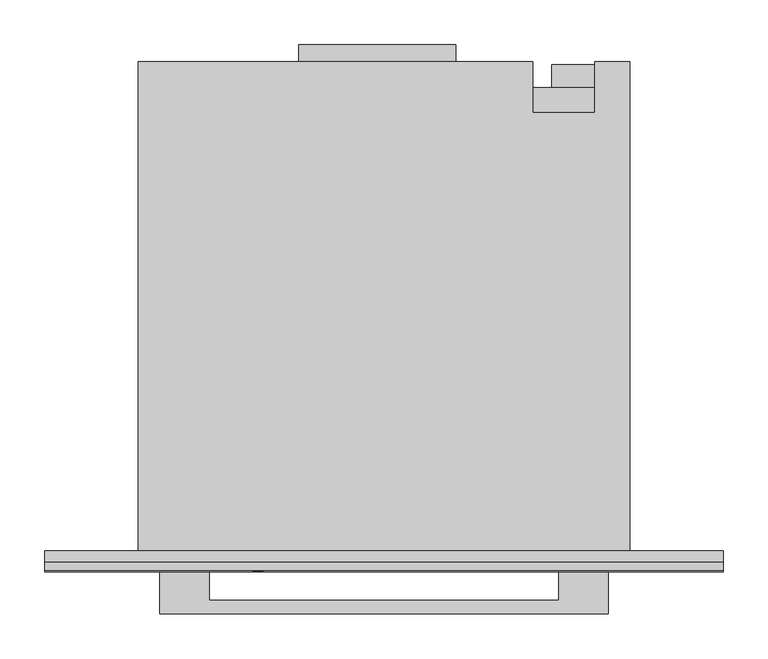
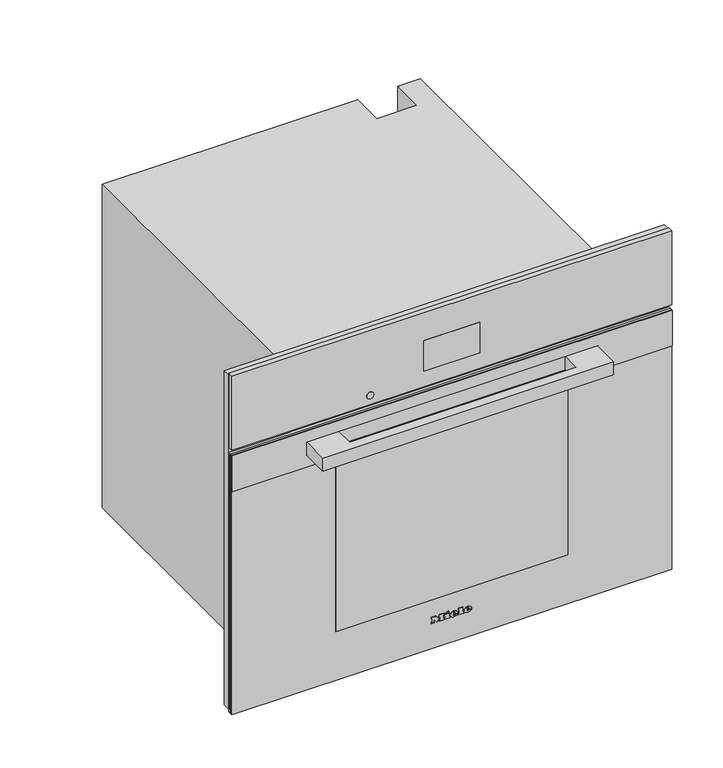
"""IFC4 building model written with IfcOpenShell, lengths in millimetres: proxy geometry, 11876470_USA_DGC7680_EDST-CLST : 23768043_USA_11876470_DGC7680_EDST-CLST."""

from ifc_helpers import new_model, si_unit, point, frame, frame_2d, origin, place, context, project, spatial, polyline, circle_curve, ellipse_curve, trimmed, segment, composite_curve, outline, extrude, faceted_brep, source, transform, mapped, element, save
from ifc_brep_helpers import plane_surface, cylinder_surface, revolved_surface, extruded_surface, advanced_brep


def specialty_equipment_7ddf465e(model_context):
    return source(origin(), model_context, "Body", "SolidModel", [
        faceted_brep([(378.5, -13.0, 617.0), (-378.5, -13.0, 617.0), (-378.5, -13.0, 9.0), (-272.5, -13.0, 9.0), (-272.5, -13.0, 485.0), (272.5, -13.0, 485.0), (272.5, -13.0, 9.0), (378.5, -13.0, 9.0), (378.5, 0.0, 617.0), (378.5, 0.0, 9.0), (-378.5, 0.0, 9.0), (-378.5, 0.0, 617.0), (231.0, 0.0, 61.0), (231.0, 0.0, 411.0), (-231.0, 0.0, 411.0), (-231.0, 0.0, 61.0), (272.5, -5.0, 9.0), (-272.5, -5.0, 9.0), (-272.5, -5.0, 485.0), (272.5, -5.0, 485.0), (231.0, -5.0, 411.0), (231.0, -5.0, 61.0), (-231.0, -5.0, 61.0), (-231.0, -5.0, 411.0)], [[[0, 1, 2, 3, 4, 5, 6, 7]], [[8, 9, 10, 11], [12, 13, 14, 15]], [[1, 0, 8, 11]], [[2, 1, 11, 10]], [[10, 9, 7, 6, 16, 17, 3, 2]], [[0, 7, 9, 8]], [[18, 19, 5, 4]], [[18, 4, 3, 17]], [[5, 19, 16, 6]], [[19, 18, 17, 16], [20, 21, 22, 23]], [[20, 13, 12, 21]], [[21, 12, 15, 22]], [[22, 15, 14, 23]], [[13, 20, 23, 14]]]),
        extrude(outline(polyline([(-95.0, 565.0), (80.0, 565.0), (80.0, 546.0), (-95.0, 546.0), (-95.0, 565.0)])), frame((0.0, 0.0, 311.0), z_axis=(0.0, 0.0, 1.0), x_axis=(1.0, 0.0, 0.0)), (0.0, 0.0, 1.0), 1.0),
        extrude(outline(polyline([(218.8383288, 522.0), (225.1236409, 522.0), (225.1236409, 511.9492425), (223.8571792, 511.9492425), (223.8571792, 520.7409796), (218.8383288, 520.7409796), (218.8383288, 522.0)])), frame((0.0, 0.0, 272.0), z_axis=(0.0, 0.0, 1.0), x_axis=(1.0, 0.0, 0.0)), (0.0, 0.0, 1.0), 1.0),
        extrude(outline(polyline([(227.0, 522.0), (234.3797826, 522.0), (234.3797826, 511.9503529), (227.15422, 511.9503529), (227.15422, 513.220938), (233.1355215, 513.220938), (233.1355215, 516.1975645), (227.4863097, 516.1975645), (227.4863097, 517.449242), (233.1355215, 517.449242), (233.1355215, 520.7448633), (227.0, 520.7448633), (227.0, 522.0)])), frame((0.0, 0.0, 272.0), z_axis=(0.0, 0.0, 1.0), x_axis=(1.0, 0.0, 0.0)), (0.0, 0.0, 1.0), 1.0),
        extrude(outline(composite_curve([segment(trimmed(circle_curve(frame_2d((227.0, 517.0)), 7.5), [point((219.5, 517.0))], [point((234.5, 517.0))], False, "CARTESIAN"), True, "CONTINUOUS"), segment(trimmed(circle_curve(frame_2d((227.0, 517.0)), 7.5), [point((234.5, 517.0))], [point((219.5, 517.0))], False, "CARTESIAN"), True, "CONTINUOUS")], self_intersect=False)), frame((0.0, 0.0, 273.0), z_axis=(0.0, 0.0, 1.0), x_axis=(1.0, 0.0, 0.0)), (0.0, 0.0, 1.0), 30.0),
        extrude(outline(polyline([(266.0, 517.0), (187.0, 517.0), (187.0, 543.0), (266.0, 543.0), (266.0, 517.0)])), frame((0.0, 0.0, 303.0), z_axis=(0.0, 0.0, 1.0), x_axis=(1.0, 0.0, 0.0)), (0.0, 0.0, 1.0), 111.0),
        faceted_brep([(-274.0, 546.0, 0.0), (-274.0, 546.0, 588.0), (166.0, 546.0, 588.0), (166.0, 546.0, 0.0), (235.0, 546.0, 588.0), (274.0, 546.0, 588.0), (274.0, 546.0, 478.0), (235.0, 546.0, 478.0), (274.0, 0.0, 588.0), (-274.0, 0.0, 588.0), (-274.0, 0.0, 0.0), (274.0, 0.0, 0.0), (231.0, 0.0, 411.0), (231.0, 0.0, 61.0), (-231.0, 0.0, 61.0), (-231.0, 0.0, 411.0), (235.0, 489.0, 588.0), (166.0, 489.0, 588.0), (166.0, 517.0, 0.0), (274.0, 517.0, 0.0), (274.0, 517.0, 478.0), (231.0, 411.0, 411.0), (-231.0, 411.0, 411.0), (-231.0, 411.0, 61.0), (231.0, 411.0, 61.0), (235.0, 489.0, 477.0), (166.0, 489.0, 477.0), (166.0, 517.0, 477.0), (235.0, 517.0, 477.0), (235.0, 517.0, 478.0)], [[[0, 1, 2, 3]], [[4, 5, 6, 7]], [[8, 9, 10, 11], [12, 13, 14, 15]], [[9, 8, 5, 4, 16, 17, 2, 1]], [[1, 0, 10, 9]], [[11, 10, 0, 3, 18, 19]], [[8, 11, 19, 20, 6, 5]], [[21, 22, 23, 24]], [[21, 24, 13, 12]], [[24, 23, 14, 13]], [[23, 22, 15, 14]], [[22, 21, 12, 15]], [[16, 25, 26, 17]], [[17, 26, 27, 18, 3, 2]], [[26, 25, 28, 27]], [[25, 16, 4, 7, 29, 28]], [[29, 20, 19, 18, 27, 28]], [[20, 29, 7, 6]]]),
        advanced_brep(
        [(26.2998, -23.0, 52.7018), (26.2998, -23.0, 53.8532), (33.9264, -23.0, 53.8532), (20.6568, -23.0, 53.8532), (23.7918, -23.0, 50.0), (33.7326, -23.0, 52.7018), (30.2898, -23.0, 52.7018), (27.5766, -23.0, 51.425), (26.2998, -23.0, 55.3124), (26.2998, -23.0, 56.555), (28.2492, -23.0, 56.555), (28.2492, -23.0, 55.3124), (26.2998, -22.0, 52.7018), (27.5766, -22.0, 51.425), (30.2898, -22.0, 52.7018), (33.7326, -22.0, 52.7018), (23.7918, -22.0, 50.0), (20.6568, -22.0, 53.8532), (33.9264, -22.0, 53.8532), (26.2998, -22.0, 53.8532), (26.2998, -22.0, 55.3124), (28.2492, -22.0, 55.3124), (28.2492, -22.0, 56.555), (26.2998, -22.0, 56.555)],
        [
            (0, 1),
            (1, 2),
            (2, 3, ellipse_curve(frame((27.2916, -23.0, 53.8532), z_axis=(0.0, -1.0, 0.0), x_axis=(-1.0, 0.0, 0.0)), 6.6348, 5.4834)),
            (3, 4, circle_curve(frame((25.0686622, -23.0, 54.2408), z_axis=(0.0, -1.0, 0.0), x_axis=(0.0, 0.0, -1.0)), 4.4288556)),
            (4, 5, circle_curve(frame((27.1587808, -23.0, 57.2504), z_axis=(0.0, -1.0, 0.0), x_axis=(0.0, 0.0, -1.0)), 7.9940516)),
            (5, 6),
            (6, 7, circle_curve(frame((28.1338588, -23.0, 53.762), z_axis=(0.0, 1.0, 0.0), x_axis=(0.0, 0.0, -1.0)), 2.4025208)),
            (7, 0, circle_curve(frame((27.5766, -23.0, 52.7018), z_axis=(0.0, 1.0, 0.0), x_axis=(0.0, 0.0, -1.0)), 1.2768)),
            (8, 9),
            (9, 10, circle_curve(frame((27.2745, -23.0, 56.555), z_axis=(0.0, 1.0, 0.0), x_axis=(0.0, 0.0, -1.0)), 0.9747)),
            (10, 11),
            (11, 8),
            (12, 13, circle_curve(frame((27.5766, -22.0, 52.7018), z_axis=(0.0, -1.0, 0.0), x_axis=(0.0, 0.0, -1.0)), 1.2768)),
            (13, 14, circle_curve(frame((28.1338588, -22.0, 53.762), z_axis=(0.0, -1.0, 0.0), x_axis=(0.0, 0.0, -1.0)), 2.4025208)),
            (14, 15),
            (15, 16, circle_curve(frame((27.1587808, -22.0, 57.2504), z_axis=(0.0, 1.0, 0.0), x_axis=(0.0, 0.0, -1.0)), 7.9940516)),
            (16, 17, circle_curve(frame((25.0686622, -22.0, 54.2408), z_axis=(0.0, 1.0, 0.0), x_axis=(0.0, 0.0, -1.0)), 4.4288556)),
            (17, 18, ellipse_curve(frame((27.2916, -22.0, 53.8532), z_axis=(0.0, 1.0, 0.0), x_axis=(-1.0, 0.0, 0.0)), 6.6348, 5.4834)),
            (18, 19),
            (19, 12),
            (20, 21),
            (21, 22),
            (22, 23, circle_curve(frame((27.2745, -22.0, 56.555), z_axis=(0.0, -1.0, 0.0), x_axis=(0.0, 0.0, -1.0)), 0.9747)),
            (23, 20),
            (0, 12),
            (19, 1),
            (18, 2),
            (5, 15),
            (14, 6),
            (17, 3),
            (13, 7),
            (16, 4),
            (8, 20),
            (23, 9),
            (22, 10),
            (21, 11),
        ],
        [
            plane_surface(frame((26.2998, -23.0, 53.8532), z_axis=(0.0, -1.0, 0.0), x_axis=(0.0, 0.0, 1.0))),
            plane_surface(frame((26.2998, -22.0, 53.8532), z_axis=(0.0, 1.0, 0.0), x_axis=(0.0, 0.0, -1.0))),
            plane_surface(frame((26.2998, -23.0, 52.7018), z_axis=(1.0, 0.0, 0.0), x_axis=(0.0, 1.0, 0.0))),
            plane_surface(frame((26.2998, -23.0, 53.8532), z_axis=(0.0, 0.0, -1.0), x_axis=(0.0, 1.0, 0.0))),
            plane_surface(frame((33.7326, -23.0, 52.7018), z_axis=(0.0, 0.0, 1.0), x_axis=(0.0, 1.0, 0.0))),
            extruded_surface(trimmed(ellipse_curve(frame((27.2916, -21.0, 53.8532), z_axis=(0.0, -1.0, 0.0), x_axis=(-1.0, 0.0, 0.0)), 6.6348, 5.4834), [point((33.9264, -21.0, 53.8532))], [point((20.6568, -21.0, 53.8532))], True, "CARTESIAN"), (0.0, -1.0, 0.0), 1.0),
            revolved_surface(polyline([(28.1338588, -22.0, 51.3594792), (28.1338588, -23.0, 51.3594792)]), (28.1338588, -22.0, 53.762), (0.0, 1.0, 0.0)),
            revolved_surface(polyline([(27.5766, -22.0, 51.425), (27.5766, -23.0, 51.425)]), (27.5766, -22.0, 52.7018), (0.0, 1.0, 0.0)),
            cylinder_surface(frame((25.0686622, -22.0, 54.2408), z_axis=(0.0, -1.0, 0.0), x_axis=(0.0, 0.0, -1.0)), 4.4288556),
            cylinder_surface(frame((27.1587808, -22.0, 57.2504), z_axis=(0.0, -1.0, 0.0), x_axis=(0.0, 0.0, -1.0)), 7.9940516),
            plane_surface(frame((26.2998, -23.0, 55.3124), z_axis=(1.0, 0.0, 0.0), x_axis=(0.0, 1.0, 0.0))),
            revolved_surface(polyline([(27.2745, -22.0, 55.5803), (27.2745, -23.0, 55.5803)]), (27.2745, -22.0, 56.555), (0.0, 1.0, 0.0)),
            plane_surface(frame((28.2492, -23.0, 56.555), z_axis=(-1.0, 0.0, 0.0), x_axis=(0.0, 1.0, 0.0))),
            plane_surface(frame((28.2492, -23.0, 55.3124), z_axis=(0.0, 0.0, 1.0), x_axis=(0.0, 1.0, 0.0))),
        ],
        [
            (0, [[1, 2, 3, 4, 5, 6, 7, 8], [9, 10, 11, 12]]),
            (1, [[13, 14, 15, 16, 17, 18, 19, 20], [21, 22, 23, 24]]),
            (2, [[-1, 25, -20, 26]]),
            (3, [[-2, -26, -19, 27]]),
            (4, [[-6, 28, -15, 29]]),
            (5, [[-3, -27, -18, 30]]),
            (6, [[-7, -29, -14, 31]]),
            (7, [[-8, -31, -13, -25]]),
            (8, [[-4, -30, -17, 32]]),
            (9, [[-5, -32, -16, -28]]),
            (10, [[-9, 33, -24, 34]]),
            (11, [[-10, -34, -23, 35]]),
            (12, [[-11, -35, -22, 36]]),
            (13, [[-12, -36, -21, -33]]),
        ],
    ),
        advanced_brep(
        [(2.508, -23.0, 52.7018), (2.508, -23.0, 53.8532), (10.1346, -23.0, 53.8532), (-3.135, -23.0, 53.8532), (0.0, -23.0, 50.0), (9.9408, -23.0, 52.7018), (6.498, -23.0, 52.7018), (3.7848, -23.0, 51.425), (2.508, -23.0, 55.3124), (2.508, -23.0, 56.555), (4.4574, -23.0, 56.555), (4.4574, -23.0, 55.3124), (2.508, -22.0, 52.7018), (3.7848, -22.0, 51.425), (6.498, -22.0, 52.7018), (9.9408, -22.0, 52.7018), (0.0, -22.0, 50.0), (-3.135, -22.0, 53.8532), (10.1346, -22.0, 53.8532), (2.508, -22.0, 53.8532), (2.508, -22.0, 55.3124), (4.4574, -22.0, 55.3124), (4.4574, -22.0, 56.555), (2.508, -22.0, 56.555)],
        [
            (0, 1),
            (1, 2),
            (2, 3, ellipse_curve(frame((3.4998, -23.0, 53.8532), z_axis=(0.0, -1.0, 0.0), x_axis=(-1.0, 0.0, 0.0)), 6.6348, 5.4834)),
            (3, 4, circle_curve(frame((1.2768622, -23.0, 54.2408), z_axis=(0.0, -1.0, 0.0), x_axis=(0.0, 0.0, -1.0)), 4.4288556)),
            (4, 5, circle_curve(frame((3.3669808, -23.0, 57.2504), z_axis=(0.0, -1.0, 0.0), x_axis=(0.0, 0.0, -1.0)), 7.9940516)),
            (5, 6),
            (6, 7, circle_curve(frame((4.3420588, -23.0, 53.762), z_axis=(0.0, 1.0, 0.0), x_axis=(0.0, 0.0, -1.0)), 2.4025208)),
            (7, 0, circle_curve(frame((3.7848, -23.0, 52.7018), z_axis=(0.0, 1.0, 0.0), x_axis=(0.0, 0.0, -1.0)), 1.2768)),
            (8, 9),
            (9, 10, circle_curve(frame((3.4827, -23.0, 56.555), z_axis=(0.0, 1.0, 0.0), x_axis=(0.0, 0.0, -1.0)), 0.9747)),
            (10, 11),
            (11, 8),
            (12, 13, circle_curve(frame((3.7848, -22.0, 52.7018), z_axis=(0.0, -1.0, 0.0), x_axis=(0.0, 0.0, -1.0)), 1.2768)),
            (13, 14, circle_curve(frame((4.3420588, -22.0, 53.762), z_axis=(0.0, -1.0, 0.0), x_axis=(0.0, 0.0, -1.0)), 2.4025208)),
            (14, 15),
            (15, 16, circle_curve(frame((3.3669808, -22.0, 57.2504), z_axis=(0.0, 1.0, 0.0), x_axis=(0.0, 0.0, -1.0)), 7.9940516)),
            (16, 17, circle_curve(frame((1.2768622, -22.0, 54.2408), z_axis=(0.0, 1.0, 0.0), x_axis=(0.0, 0.0, -1.0)), 4.4288556)),
            (17, 18, ellipse_curve(frame((3.4998, -22.0, 53.8532), z_axis=(0.0, 1.0, 0.0), x_axis=(-1.0, 0.0, 0.0)), 6.6348, 5.4834)),
            (18, 19),
            (19, 12),
            (20, 21),
            (21, 22),
            (22, 23, circle_curve(frame((3.4827, -22.0, 56.555), z_axis=(0.0, -1.0, 0.0), x_axis=(0.0, 0.0, -1.0)), 0.9747)),
            (23, 20),
            (0, 12),
            (19, 1),
            (18, 2),
            (5, 15),
            (14, 6),
            (17, 3),
            (13, 7),
            (16, 4),
            (8, 20),
            (23, 9),
            (22, 10),
            (21, 11),
        ],
        [
            plane_surface(frame((2.508, -23.0, 53.8532), z_axis=(0.0, -1.0, 0.0), x_axis=(0.0, 0.0, 1.0))),
            plane_surface(frame((2.508, -22.0, 53.8532), z_axis=(0.0, 1.0, 0.0), x_axis=(0.0, 0.0, -1.0))),
            plane_surface(frame((2.508, -23.0, 52.7018), z_axis=(1.0, 0.0, 0.0), x_axis=(0.0, 1.0, 0.0))),
            plane_surface(frame((2.508, -23.0, 53.8532), z_axis=(0.0, 0.0, -1.0), x_axis=(0.0, 1.0, 0.0))),
            plane_surface(frame((9.9408, -23.0, 52.7018), z_axis=(0.0, 0.0, 1.0), x_axis=(0.0, 1.0, 0.0))),
            extruded_surface(trimmed(ellipse_curve(frame((3.4998, -21.0, 53.8532), z_axis=(0.0, -1.0, 0.0), x_axis=(-1.0, 0.0, 0.0)), 6.6348, 5.4834), [point((10.1346, -21.0, 53.8532))], [point((-3.135, -21.0, 53.8532))], True, "CARTESIAN"), (0.0, -1.0, 0.0), 1.0),
            revolved_surface(polyline([(4.3420588, -22.0, 51.3594792), (4.3420588, -23.0, 51.3594792)]), (4.3420588, -22.0, 53.762), (0.0, 1.0, 0.0)),
            revolved_surface(polyline([(3.7848, -22.0, 51.425), (3.7848, -23.0, 51.425)]), (3.7848, -22.0, 52.7018), (0.0, 1.0, 0.0)),
            cylinder_surface(frame((1.2768622, -22.0, 54.2408), z_axis=(0.0, -1.0, 0.0), x_axis=(0.0, 0.0, -1.0)), 4.4288556),
            cylinder_surface(frame((3.3669808, -22.0, 57.2504), z_axis=(0.0, -1.0, 0.0), x_axis=(0.0, 0.0, -1.0)), 7.9940516),
            plane_surface(frame((2.508, -23.0, 55.3124), z_axis=(1.0, 0.0, 0.0), x_axis=(0.0, 1.0, 0.0))),
            revolved_surface(polyline([(3.4827, -22.0, 55.5803), (3.4827, -23.0, 55.5803)]), (3.4827, -22.0, 56.555), (0.0, 1.0, 0.0)),
            plane_surface(frame((4.4574, -23.0, 56.555), z_axis=(-1.0, 0.0, 0.0), x_axis=(0.0, 1.0, 0.0))),
            plane_surface(frame((4.4574, -23.0, 55.3124), z_axis=(0.0, 0.0, 1.0), x_axis=(0.0, 1.0, 0.0))),
        ],
        [
            (0, [[1, 2, 3, 4, 5, 6, 7, 8], [9, 10, 11, 12]]),
            (1, [[13, 14, 15, 16, 17, 18, 19, 20], [21, 22, 23, 24]]),
            (2, [[-1, 25, -20, 26]]),
            (3, [[-2, -26, -19, 27]]),
            (4, [[-6, 28, -15, 29]]),
            (5, [[-3, -27, -18, 30]]),
            (6, [[-7, -29, -14, 31]]),
            (7, [[-8, -31, -13, -25]]),
            (8, [[-4, -30, -17, 32]]),
            (9, [[-5, -32, -16, -28]]),
            (10, [[-9, 33, -24, 34]]),
            (11, [[-10, -34, -23, 35]]),
            (12, [[-11, -35, -22, 36]]),
            (13, [[-12, -36, -21, -33]]),
        ],
    ),
        extrude(outline(polyline([(60.7274, -9.9522), (58.8806, -9.0858), (60.6818, -5.2212), (62.5286, -6.0762), (60.7274, -9.9522)])), frame((0.0, -23.0, 0.0), z_axis=(0.0, 1.0, 0.0), x_axis=(0.0, 0.0, 1.0)), (0.0, 0.0, 1.0), 1.0),
        extrude(outline(polyline([(58.6298, -12.768), (56.5892, -12.768), (56.5892, -11.4114), (51.9152, -11.4114), (51.9152, -12.768), (50.0, -12.768), (50.0, -3.7734), (51.9152, -3.7734), (51.9152, -5.0958), (58.6298, -5.0958), (58.6298, -12.768)])), frame((0.0, -23.0, 0.0), z_axis=(0.0, 1.0, 0.0), x_axis=(0.0, 0.0, 1.0)), (0.0, 0.0, 1.0), 1.0),
        extrude(outline(polyline([(59.5418, 10.773), (59.5418, 12.141), (51.9152, 12.141), (51.9152, 10.773), (50.0, 10.773), (50.0, 20.0184), (51.9152, 20.0184), (51.9152, 18.6162), (61.4, 18.6162), (61.4, 10.773), (59.5418, 10.773)])), frame((0.0, -23.0, 0.0), z_axis=(0.0, 1.0, 0.0), x_axis=(0.0, 0.0, 1.0)), (0.0, 0.0, 1.0), 1.0),
        extrude(outline(polyline([(59.5418, -35.4882), (59.5418, -34.1088), (51.9152, -34.1088), (51.9152, -35.4882), (50.0, -35.4882), (50.0, -30.4722), (51.9152, -30.4722), (51.9152, -31.8402), (56.7429247, -31.8402), (50.0, -26.7444), (56.9402223, -21.6258), (51.9152, -21.6258), (51.9152, -23.028), (50.0, -23.028), (50.0, -13.9308), (51.9152, -13.9308), (51.9152, -15.3786), (59.5418, -15.3786), (59.5418, -13.9308), (61.4, -13.9308), (61.4, -20.8734), (57.125, -24.2022), (61.4, -27.5424), (61.4, -35.4882), (59.5418, -35.4882)])), frame((0.0, -23.0, 0.0), z_axis=(0.0, 1.0, 0.0), x_axis=(0.0, 0.0, 1.0)), (0.0, 0.0, 1.0), 1.0),
        extrude(outline(composite_curve([segment(trimmed(circle_curve(frame_2d((502.0, -140.5745637)), 6.0), [point((502.0, -146.5745637))], [point((502.0, -134.5745637))], False, "CARTESIAN"), True, "CONTINUOUS"), segment(trimmed(circle_curve(frame_2d((502.0, -140.5745637)), 6.0), [point((502.0, -134.5745637))], [point((502.0, -146.5745637))], False, "CARTESIAN"), True, "CONTINUOUS")], self_intersect=False)), frame((0.0, -22.5, 0.0), z_axis=(0.0, 1.0, 0.0), x_axis=(0.0, 0.0, 1.0)), (0.0, 0.0, 1.0), 1.0),
        extrude(outline(polyline([(-48.0, -21.0), (48.0, -21.0), (48.0, -22.0), (-48.0, -22.0), (-48.0, -21.0)])), frame((0.0, 0.0, 513.0), z_axis=(0.0, 0.0, 1.0), x_axis=(1.0, 0.0, 0.0)), (0.0, 0.0, 1.0), 56.0),
        faceted_brep([(378.5, -22.0, 620.0), (-378.5, -22.0, 620.0), (-378.5, -22.0, 485.0), (378.5, -22.0, 485.0), (48.0, -22.0, 569.0), (48.0, -22.0, 513.0), (-48.0, -22.0, 513.0), (-48.0, -22.0, 569.0), (378.5, -13.0, 620.0), (378.5, -13.0, 485.0), (-378.5, -13.0, 485.0), (-378.5, -13.0, 620.0), (48.0, -21.0, 569.0), (-48.0, -21.0, 569.0), (-48.0, -21.0, 513.0), (48.0, -21.0, 513.0)], [[[0, 1, 2, 3], [4, 5, 6, 7]], [[8, 9, 10, 11]], [[1, 0, 8, 11]], [[2, 1, 11, 10]], [[3, 2, 10, 9]], [[0, 3, 9, 8]], [[12, 13, 14, 15]], [[12, 15, 5, 4]], [[15, 14, 6, 5]], [[14, 13, 7, 6]], [[13, 12, 4, 7]]]),
        extrude(outline(polyline([(200.0, -22.0), (-200.0, -22.0), (-200.0, -18.0), (200.0, -18.0), (200.0, -22.0)])), frame((0.0, 0.0, 92.5), z_axis=(0.0, 0.0, 1.0), x_axis=(1.0, 0.0, 0.0)), (0.0, 0.0, 1.0), 300.0),
        extrude(outline(polyline([(476.0, 378.5), (476.0, -378.5), (4.0, -378.5), (4.0, 378.5), (476.0, 378.5)]), holes=[polyline([(392.5, -200.0), (392.5, 200.0), (92.5, 200.0), (92.5, -200.0), (392.5, -200.0)])]), frame((0.0, -22.0, 0.0), z_axis=(0.0, 1.0, 0.0), x_axis=(0.0, 0.0, 1.0)), (0.0, 0.0, 1.0), 4.0),
        extrude(outline(polyline([(476.0, 378.5), (476.0, -378.5), (411.0, -378.5), (411.0, 378.5), (476.0, 378.5)]), holes=[polyline([(456.0, -250.5), (456.0, 250.5), (431.0, 250.5), (431.0, -250.5), (456.0, -250.5)])]), frame((0.0, -23.3, 0.0), z_axis=(0.0, 1.0, 0.0), x_axis=(0.0, 0.0, 1.0)), (0.0, 0.0, 1.0), 1.3),
        extrude(outline(polyline([(-250.0, -70.3), (-250.0, -22.0), (-195.0, -22.0), (-195.0, -55.3), (195.0, -55.3), (195.0, -22.0), (250.0, -22.0), (250.0, -70.3), (-250.0, -70.3)])), frame((0.0, 0.0, 431.5), z_axis=(0.0, 0.0, 1.0), x_axis=(1.0, 0.0, 0.0)), (0.0, 0.0, 1.0), 24.0),
        extrude(outline(polyline([(378.5, -18.0), (-378.5, -18.0), (-378.5, -13.0), (378.5, -13.0), (378.5, -18.0)])), frame((0.0, 0.0, 4.0), z_axis=(0.0, 0.0, 1.0), x_axis=(1.0, 0.0, 0.0)), (0.0, 0.0, 1.0), 472.0),
    ])


if __name__ == "__main__":
    model = new_model("IFC4")
    model_context = context("Model", 3, world=origin())
    ifc_project = project(units=[si_unit("LENGTHUNIT", "METRE", prefix="MILLI")], contexts=[model_context])
    site = spatial("IfcSite", under=ifc_project)
    building = spatial("IfcBuilding", under=site)
    placement = place(None, origin())
    specialty_equipment_shape = specialty_equipment_7ddf465e(model_context)
    element("IfcBuildingElementProxy", 1, Name="11876470_USA_DGC7680_EDST-CLST : 23768043_USA_11876470_DGC7680_EDST-CLST", ObjectType="11876470_USA_DGC7680_EDST-CLST : 23768043_USA_11876470_DGC7680_EDST-CLST", at=placement, inside=building, context=model_context, shape_type="MappedRepresentation", body=[
        mapped(specialty_equipment_shape, transform((0.0, 0.0, 0.0), x_axis=(1.0, 0.0, 0.0), y_axis=(0.0, 1.0, 0.0), z_axis=(0.0, 0.0, 1.0))),
    ])
    save(model, "model.ifc")
